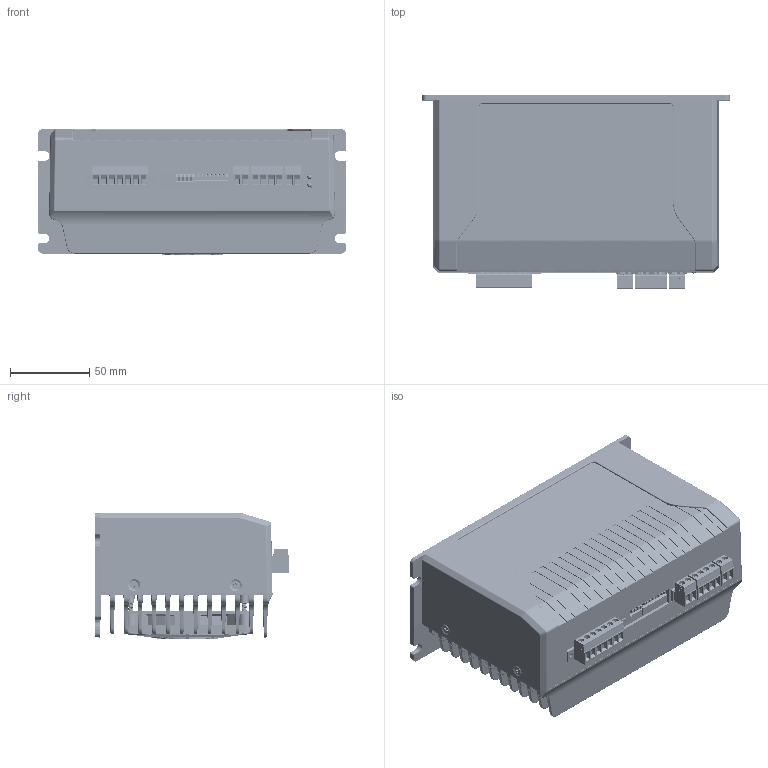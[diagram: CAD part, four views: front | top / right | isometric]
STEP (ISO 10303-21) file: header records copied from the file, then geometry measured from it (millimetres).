
FILE_DESCRIPTION (( 'STEP AP214' ), '1' );
FILE_NAME ('2DM2260.STEP', '2018-01-11T11:42:11', ( '' ), ( '' ), 'SwSTEP 2.0', 'SolidWorks 2016', '' );
FILE_SCHEMA (( 'AUTOMOTIVE_DESIGN' ));
Length unit declared in the file: millimetre
Products named in the file (19): 2DM2260; 8010fan; 5.08 4way; 4 way 5.08 wubian; RJ21; 2pin5_08youbian; 2DM2260PCB; two led; Dip_Switch_Piano_8ways; Switch-Piano-DIP-4; 80FAN GUARD; 5.08 2way; 5.08 7way; 7way5.08 lock; 7way xuan; M3x6麥芛蹟佪; 埴芛湍簽M3x20; 2DM2260散热器; 2DM2260裔赽
Assembly tree (26 placements, depth 2):
  2DM2260
    2DM2260散热器
    2DM2260PCB
    two led
    2pin5_08youbian  x2
    RJ21
    4 way 5.08 wubian
    7way xuan
    7way5.08 lock
    5.08 2way  x2
    5.08 4way
    5.08 7way
    2DM2260裔赽
    Dip_Switch_Piano_8ways
    Switch-Piano-DIP-4
    M3x6麥芛蹟佪  x4
    8010fan
    80FAN GUARD
    埴芛湍簽M3x20  x4
Bounding box: 194 x 122.75 x 79.4 mm (x, y, z)
Volume: 359428.7 mm3; surface area: 311035.9 mm2
Topology: 18 solids, 89 shells, 5132 faces, 13692 edges, 8758 vertices
Faces by surface type: plane 2528, cylinder 1816, bspline 576, cone 107, torus 74, sphere 31
Entity records: 198908 total; most frequent: CARTESIAN_POINT 67116, ORIENTED_EDGE 22360, DIRECTION 18878, EDGE_CURVE 11443, VERTEX_POINT 7345, VECTOR 6684, LINE 6684, AXIS2_PLACEMENT_3D 6097
